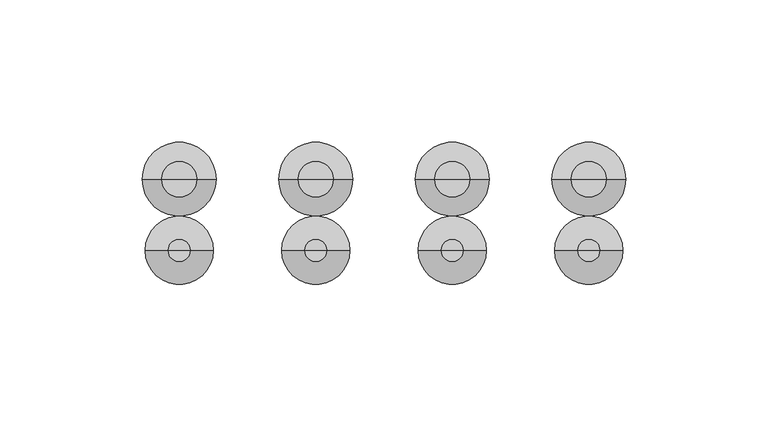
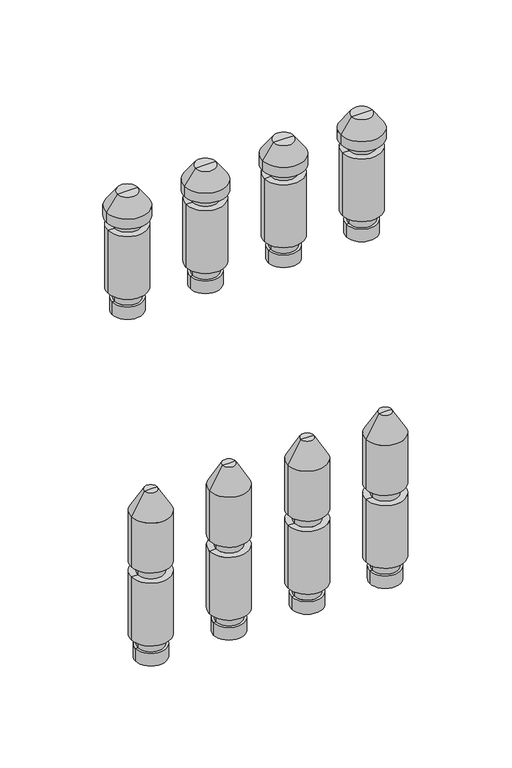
"""IFC4 building model written with IfcOpenShell, lengths in millimetres: valve geometry, PL AT_Manifold_FT-EV : 05 circuits."""

from ifc_helpers import new_model, si_unit, frame, origin, place, context, project, spatial, polyline, circle_curve, source, transform, mapped, element, save
from ifc_brep_helpers import plane_surface, cylinder_surface, revolved_surface, advanced_brep


def valve_0794a25a(model_context):
    return source(origin(), model_context, "Body", "AdvancedBrep", [
        advanced_brep(
        [(176.5, 0.0, -35.11267), (195.5, 0.0, -35.11267), (186.0, 0.0, -35.11267), (176.5, 0.0, -27.0369646), (195.5, 0.0, -27.0369646), (178.0, 0.0, -27.0369646), (194.0, 0.0, -27.0369646), (178.0, 0.0, -20.330253), (194.0, 0.0, -20.330253), (174.0, 0.0, -20.330253), (198.0, 0.0, -20.330253), (174.0, 0.0, 20.330253), (198.0, 0.0, 20.330253), (178.0, 0.0, 20.330253), (194.0, 0.0, 20.330253), (178.0, 0.0, 27.0474786), (194.0, 0.0, 27.0474786), (174.0, 0.0, 27.0474786), (198.0, 0.0, 27.0474786), (174.0, 0.0, 59.4084325), (198.0, 0.0, 59.4084325), (182.0, 0.0, 73.264839), (190.0, 0.0, 73.264839), (186.0, 0.0, 73.264839)],
        [
            (0, 1, circle_curve(frame((186.0, 0.0, -35.11267), z_axis=(0.0, 0.0, -1.0), x_axis=(1.0, 0.0, 0.0)), 9.5)),
            (1, 2),
            (2, 0),
            (1, 0, circle_curve(frame((186.0, 0.0, -35.11267), z_axis=(0.0, 0.0, -1.0), x_axis=(1.0, 0.0, 0.0)), 9.5)),
            (3, 4, circle_curve(frame((186.0, 0.0, -27.0369646), z_axis=(0.0, 0.0, -1.0), x_axis=(1.0, 0.0, 0.0)), 9.5)),
            (4, 1),
            (0, 3),
            (4, 3, circle_curve(frame((186.0, 0.0, -27.0369646), z_axis=(0.0, 0.0, -1.0), x_axis=(1.0, 0.0, 0.0)), 9.5)),
            (5, 6, circle_curve(frame((186.0, 0.0, -27.0369646), z_axis=(0.0, 0.0, -1.0), x_axis=(1.0, 0.0, 0.0)), 8.0)),
            (6, 4),
            (3, 5),
            (6, 5, circle_curve(frame((186.0, 0.0, -27.0369646), z_axis=(0.0, 0.0, -1.0), x_axis=(1.0, 0.0, 0.0)), 8.0)),
            (7, 8, circle_curve(frame((186.0, 0.0, -20.330253), z_axis=(0.0, 0.0, -1.0), x_axis=(1.0, 0.0, 0.0)), 8.0)),
            (8, 6),
            (5, 7),
            (8, 7, circle_curve(frame((186.0, 0.0, -20.330253), z_axis=(0.0, 0.0, -1.0), x_axis=(1.0, 0.0, 0.0)), 8.0)),
            (9, 10, circle_curve(frame((186.0, 0.0, -20.330253), z_axis=(0.0, 0.0, -1.0), x_axis=(1.0, 0.0, 0.0)), 12.0)),
            (10, 8),
            (7, 9),
            (10, 9, circle_curve(frame((186.0, 0.0, -20.330253), z_axis=(0.0, 0.0, -1.0), x_axis=(1.0, 0.0, 0.0)), 12.0)),
            (11, 12, circle_curve(frame((186.0, 0.0, 20.330253), z_axis=(0.0, 0.0, -1.0), x_axis=(1.0, 0.0, 0.0)), 12.0)),
            (12, 10),
            (9, 11),
            (12, 11, circle_curve(frame((186.0, 0.0, 20.330253), z_axis=(0.0, 0.0, -1.0), x_axis=(1.0, 0.0, 0.0)), 12.0)),
            (13, 14, circle_curve(frame((186.0, 0.0, 20.330253), z_axis=(0.0, 0.0, -1.0), x_axis=(1.0, 0.0, 0.0)), 8.0)),
            (14, 12),
            (11, 13),
            (14, 13, circle_curve(frame((186.0, 0.0, 20.330253), z_axis=(0.0, 0.0, -1.0), x_axis=(1.0, 0.0, 0.0)), 8.0)),
            (15, 16, circle_curve(frame((186.0, 0.0, 27.0474786), z_axis=(0.0, 0.0, -1.0), x_axis=(1.0, 0.0, 0.0)), 8.0)),
            (16, 14),
            (13, 15),
            (16, 15, circle_curve(frame((186.0, 0.0, 27.0474786), z_axis=(0.0, 0.0, -1.0), x_axis=(1.0, 0.0, 0.0)), 8.0)),
            (17, 18, circle_curve(frame((186.0, 0.0, 27.0474786), z_axis=(0.0, 0.0, -1.0), x_axis=(1.0, 0.0, 0.0)), 12.0)),
            (18, 16),
            (15, 17),
            (18, 17, circle_curve(frame((186.0, 0.0, 27.0474786), z_axis=(0.0, 0.0, -1.0), x_axis=(1.0, 0.0, 0.0)), 12.0)),
            (19, 20, circle_curve(frame((186.0, 0.0, 59.4084325), z_axis=(0.0, 0.0, -1.0), x_axis=(1.0, 0.0, 0.0)), 12.0)),
            (20, 18),
            (17, 19),
            (20, 19, circle_curve(frame((186.0, 0.0, 59.4084325), z_axis=(0.0, 0.0, -1.0), x_axis=(1.0, 0.0, 0.0)), 12.0)),
            (21, 22, circle_curve(frame((186.0, 0.0, 73.264839), z_axis=(0.0, 0.0, -1.0), x_axis=(1.0, 0.0, 0.0)), 4.0)),
            (22, 20),
            (19, 21),
            (22, 21, circle_curve(frame((186.0, 0.0, 73.264839), z_axis=(0.0, 0.0, -1.0), x_axis=(1.0, 0.0, 0.0)), 4.0)),
            (23, 22),
            (21, 23),
        ],
        [
            plane_surface(frame((186.0, 0.0, -35.11267), z_axis=(0.0, 0.0, -1.0), x_axis=(1.0, 0.0, 0.0))),
            cylinder_surface(frame((186.0, 0.0, 58.264839), z_axis=(0.0, 0.0, 1.0), x_axis=(1.0, 0.0, 0.0)), 9.5),
            plane_surface(frame((186.0, 0.0, -27.0369646), z_axis=(0.0, 0.0, 1.0), x_axis=(1.0, 0.0, 0.0))),
            cylinder_surface(frame((186.0, 0.0, 58.264839), z_axis=(0.0, 0.0, 1.0), x_axis=(1.0, 0.0, 0.0)), 8.0),
            plane_surface(frame((186.0, 0.0, -20.330253), z_axis=(0.0, 0.0, -1.0), x_axis=(1.0, 0.0, 0.0))),
            cylinder_surface(frame((186.0, 0.0, 58.264839), z_axis=(0.0, 0.0, 1.0), x_axis=(1.0, 0.0, 0.0)), 12.0),
            plane_surface(frame((186.0, 0.0, 20.330253), z_axis=(0.0, 0.0, 1.0), x_axis=(1.0, 0.0, 0.0))),
            plane_surface(frame((186.0, 0.0, 27.0474786), z_axis=(0.0, 0.0, -1.0), x_axis=(1.0, 0.0, 0.0))),
            revolved_surface(polyline([(198.0, 0.0, 59.4084325), (190.0, 0.0, 73.264839)]), (186.0, 0.0, 58.264839), (0.0, 0.0, 1.0)),
            plane_surface(frame((186.0, 0.0, 73.264839), z_axis=(0.0, 0.0, 1.0), x_axis=(1.0, 0.0, 0.0))),
        ],
        [
            (0, [[1, 2, 3]]),
            (0, [[4, -3, -2]]),
            (1, [[5, 6, -1, 7]]),
            (1, [[8, -7, -4, -6]]),
            (2, [[9, 10, -5, 11]]),
            (2, [[12, -11, -8, -10]]),
            (3, [[13, 14, -9, 15]]),
            (3, [[16, -15, -12, -14]]),
            (4, [[17, 18, -13, 19]]),
            (4, [[20, -19, -16, -18]]),
            (5, [[21, 22, -17, 23]]),
            (5, [[24, -23, -20, -22]]),
            (6, [[25, 26, -21, 27]]),
            (6, [[28, -27, -24, -26]]),
            (3, [[29, 30, -25, 31]]),
            (3, [[32, -31, -28, -30]]),
            (7, [[33, 34, -29, 35]]),
            (7, [[36, -35, -32, -34]]),
            (5, [[37, 38, -33, 39]]),
            (5, [[40, -39, -36, -38]]),
            (8, [[41, 42, -37, 43]]),
            (8, [[44, -43, -40, -42]]),
            (9, [[45, -41, 46]]),
            (9, [[-46, -44, -45]]),
        ],
    ),
        advanced_brep(
        [(128.5, 0.0, -35.11267), (147.5, 0.0, -35.11267), (138.0, 0.0, -35.11267), (128.5, 0.0, -27.0369646), (147.5, 0.0, -27.0369646), (130.0, 0.0, -27.0369646), (146.0, 0.0, -27.0369646), (130.0, 0.0, -20.330253), (146.0, 0.0, -20.330253), (126.0, 0.0, -20.330253), (150.0, 0.0, -20.330253), (126.0, 0.0, 20.330253), (150.0, 0.0, 20.330253), (130.0, 0.0, 20.330253), (146.0, 0.0, 20.330253), (130.0, 0.0, 27.0474786), (146.0, 0.0, 27.0474786), (126.0, 0.0, 27.0474786), (150.0, 0.0, 27.0474786), (126.0, 0.0, 59.4084325), (150.0, 0.0, 59.4084325), (134.0, 0.0, 73.264839), (142.0, 0.0, 73.264839), (138.0, 0.0, 73.264839)],
        [
            (0, 1, circle_curve(frame((138.0, 0.0, -35.11267), z_axis=(0.0, 0.0, -1.0), x_axis=(1.0, 0.0, 0.0)), 9.5)),
            (1, 2),
            (2, 0),
            (1, 0, circle_curve(frame((138.0, 0.0, -35.11267), z_axis=(0.0, 0.0, -1.0), x_axis=(1.0, 0.0, 0.0)), 9.5)),
            (3, 4, circle_curve(frame((138.0, 0.0, -27.0369646), z_axis=(0.0, 0.0, -1.0), x_axis=(1.0, 0.0, 0.0)), 9.5)),
            (4, 1),
            (0, 3),
            (4, 3, circle_curve(frame((138.0, 0.0, -27.0369646), z_axis=(0.0, 0.0, -1.0), x_axis=(1.0, 0.0, 0.0)), 9.5)),
            (5, 6, circle_curve(frame((138.0, 0.0, -27.0369646), z_axis=(0.0, 0.0, -1.0), x_axis=(1.0, 0.0, 0.0)), 8.0)),
            (6, 4),
            (3, 5),
            (6, 5, circle_curve(frame((138.0, 0.0, -27.0369646), z_axis=(0.0, 0.0, -1.0), x_axis=(1.0, 0.0, 0.0)), 8.0)),
            (7, 8, circle_curve(frame((138.0, 0.0, -20.330253), z_axis=(0.0, 0.0, -1.0), x_axis=(1.0, 0.0, 0.0)), 8.0)),
            (8, 6),
            (5, 7),
            (8, 7, circle_curve(frame((138.0, 0.0, -20.330253), z_axis=(0.0, 0.0, -1.0), x_axis=(1.0, 0.0, 0.0)), 8.0)),
            (9, 10, circle_curve(frame((138.0, 0.0, -20.330253), z_axis=(0.0, 0.0, -1.0), x_axis=(1.0, 0.0, 0.0)), 12.0)),
            (10, 8),
            (7, 9),
            (10, 9, circle_curve(frame((138.0, 0.0, -20.330253), z_axis=(0.0, 0.0, -1.0), x_axis=(1.0, 0.0, 0.0)), 12.0)),
            (11, 12, circle_curve(frame((138.0, 0.0, 20.330253), z_axis=(0.0, 0.0, -1.0), x_axis=(1.0, 0.0, 0.0)), 12.0)),
            (12, 10),
            (9, 11),
            (12, 11, circle_curve(frame((138.0, 0.0, 20.330253), z_axis=(0.0, 0.0, -1.0), x_axis=(1.0, 0.0, 0.0)), 12.0)),
            (13, 14, circle_curve(frame((138.0, 0.0, 20.330253), z_axis=(0.0, 0.0, -1.0), x_axis=(1.0, 0.0, 0.0)), 8.0)),
            (14, 12),
            (11, 13),
            (14, 13, circle_curve(frame((138.0, 0.0, 20.330253), z_axis=(0.0, 0.0, -1.0), x_axis=(1.0, 0.0, 0.0)), 8.0)),
            (15, 16, circle_curve(frame((138.0, 0.0, 27.0474786), z_axis=(0.0, 0.0, -1.0), x_axis=(1.0, 0.0, 0.0)), 8.0)),
            (16, 14),
            (13, 15),
            (16, 15, circle_curve(frame((138.0, 0.0, 27.0474786), z_axis=(0.0, 0.0, -1.0), x_axis=(1.0, 0.0, 0.0)), 8.0)),
            (17, 18, circle_curve(frame((138.0, 0.0, 27.0474786), z_axis=(0.0, 0.0, -1.0), x_axis=(1.0, 0.0, 0.0)), 12.0)),
            (18, 16),
            (15, 17),
            (18, 17, circle_curve(frame((138.0, 0.0, 27.0474786), z_axis=(0.0, 0.0, -1.0), x_axis=(1.0, 0.0, 0.0)), 12.0)),
            (19, 20, circle_curve(frame((138.0, 0.0, 59.4084325), z_axis=(0.0, 0.0, -1.0), x_axis=(1.0, 0.0, 0.0)), 12.0)),
            (20, 18),
            (17, 19),
            (20, 19, circle_curve(frame((138.0, 0.0, 59.4084325), z_axis=(0.0, 0.0, -1.0), x_axis=(1.0, 0.0, 0.0)), 12.0)),
            (21, 22, circle_curve(frame((138.0, 0.0, 73.264839), z_axis=(0.0, 0.0, -1.0), x_axis=(1.0, 0.0, 0.0)), 4.0)),
            (22, 20),
            (19, 21),
            (22, 21, circle_curve(frame((138.0, 0.0, 73.264839), z_axis=(0.0, 0.0, -1.0), x_axis=(1.0, 0.0, 0.0)), 4.0)),
            (23, 22),
            (21, 23),
        ],
        [
            plane_surface(frame((138.0, 0.0, -35.11267), z_axis=(0.0, 0.0, -1.0), x_axis=(1.0, 0.0, 0.0))),
            cylinder_surface(frame((138.0, 0.0, 58.264839), z_axis=(0.0, 0.0, 1.0), x_axis=(1.0, 0.0, 0.0)), 9.5),
            plane_surface(frame((138.0, 0.0, -27.0369646), z_axis=(0.0, 0.0, 1.0), x_axis=(1.0, 0.0, 0.0))),
            cylinder_surface(frame((138.0, 0.0, 58.264839), z_axis=(0.0, 0.0, 1.0), x_axis=(1.0, 0.0, 0.0)), 8.0),
            plane_surface(frame((138.0, 0.0, -20.330253), z_axis=(0.0, 0.0, -1.0), x_axis=(1.0, 0.0, 0.0))),
            cylinder_surface(frame((138.0, 0.0, 58.264839), z_axis=(0.0, 0.0, 1.0), x_axis=(1.0, 0.0, 0.0)), 12.0),
            plane_surface(frame((138.0, 0.0, 20.330253), z_axis=(0.0, 0.0, 1.0), x_axis=(1.0, 0.0, 0.0))),
            plane_surface(frame((138.0, 0.0, 27.0474786), z_axis=(0.0, 0.0, -1.0), x_axis=(1.0, 0.0, 0.0))),
            revolved_surface(polyline([(150.0, 0.0, 59.4084325), (142.0, 0.0, 73.264839)]), (138.0, 0.0, 58.264839), (0.0, 0.0, 1.0)),
            plane_surface(frame((138.0, 0.0, 73.264839), z_axis=(0.0, 0.0, 1.0), x_axis=(1.0, 0.0, 0.0))),
        ],
        [
            (0, [[1, 2, 3]]),
            (0, [[4, -3, -2]]),
            (1, [[5, 6, -1, 7]]),
            (1, [[8, -7, -4, -6]]),
            (2, [[9, 10, -5, 11]]),
            (2, [[12, -11, -8, -10]]),
            (3, [[13, 14, -9, 15]]),
            (3, [[16, -15, -12, -14]]),
            (4, [[17, 18, -13, 19]]),
            (4, [[20, -19, -16, -18]]),
            (5, [[21, 22, -17, 23]]),
            (5, [[24, -23, -20, -22]]),
            (6, [[25, 26, -21, 27]]),
            (6, [[28, -27, -24, -26]]),
            (3, [[29, 30, -25, 31]]),
            (3, [[32, -31, -28, -30]]),
            (7, [[33, 34, -29, 35]]),
            (7, [[36, -35, -32, -34]]),
            (5, [[37, 38, -33, 39]]),
            (5, [[40, -39, -36, -38]]),
            (8, [[41, 42, -37, 43]]),
            (8, [[44, -43, -40, -42]]),
            (9, [[45, -41, 46]]),
            (9, [[-46, -44, -45]]),
        ],
    ),
        advanced_brep(
        [(176.5, 25.0, 174.88733), (195.5, 25.0, 174.88733), (186.0, 25.0, 174.88733), (176.5, 25.0, 182.9630354), (195.5, 25.0, 182.9630354), (178.0, 25.0, 182.9630354), (194.0, 25.0, 182.9630354), (178.0, 25.0, 189.669747), (194.0, 25.0, 189.669747), (174.0, 25.0, 189.669747), (198.0, 25.0, 189.669747), (174.0, 25.0, 230.330253), (198.0, 25.0, 230.330253), (178.0, 25.0, 230.330253), (194.0, 25.0, 230.330253), (178.0, 25.0, 236.0474786), (194.0, 25.0, 236.0474786), (173.0, 25.0, 236.0474786), (199.0, 25.0, 236.0474786), (173.0, 25.0, 242.337955), (199.0, 25.0, 242.337955), (179.6551779, 25.0, 251.842534), (192.3448221, 25.0, 251.842534), (186.0, 25.0, 251.842534)],
        [
            (0, 1, circle_curve(frame((186.0, 25.0, 174.88733), z_axis=(0.0, 0.0, -1.0), x_axis=(1.0, 0.0, 0.0)), 9.5)),
            (1, 2),
            (2, 0),
            (1, 0, circle_curve(frame((186.0, 25.0, 174.88733), z_axis=(0.0, 0.0, -1.0), x_axis=(1.0, 0.0, 0.0)), 9.5)),
            (3, 4, circle_curve(frame((186.0, 25.0, 182.9630354), z_axis=(0.0, 0.0, -1.0), x_axis=(1.0, 0.0, 0.0)), 9.5)),
            (4, 1),
            (0, 3),
            (4, 3, circle_curve(frame((186.0, 25.0, 182.9630354), z_axis=(0.0, 0.0, -1.0), x_axis=(1.0, 0.0, 0.0)), 9.5)),
            (5, 6, circle_curve(frame((186.0, 25.0, 182.9630354), z_axis=(0.0, 0.0, -1.0), x_axis=(1.0, 0.0, 0.0)), 8.0)),
            (6, 4),
            (3, 5),
            (6, 5, circle_curve(frame((186.0, 25.0, 182.9630354), z_axis=(0.0, 0.0, -1.0), x_axis=(1.0, 0.0, 0.0)), 8.0)),
            (7, 8, circle_curve(frame((186.0, 25.0, 189.669747), z_axis=(0.0, 0.0, -1.0), x_axis=(1.0, 0.0, 0.0)), 8.0)),
            (8, 6),
            (5, 7),
            (8, 7, circle_curve(frame((186.0, 25.0, 189.669747), z_axis=(0.0, 0.0, -1.0), x_axis=(1.0, 0.0, 0.0)), 8.0)),
            (9, 10, circle_curve(frame((186.0, 25.0, 189.669747), z_axis=(0.0, 0.0, -1.0), x_axis=(1.0, 0.0, 0.0)), 12.0)),
            (10, 8),
            (7, 9),
            (10, 9, circle_curve(frame((186.0, 25.0, 189.669747), z_axis=(0.0, 0.0, -1.0), x_axis=(1.0, 0.0, 0.0)), 12.0)),
            (11, 12, circle_curve(frame((186.0, 25.0, 230.330253), z_axis=(0.0, 0.0, -1.0), x_axis=(1.0, 0.0, 0.0)), 12.0)),
            (12, 10),
            (9, 11),
            (12, 11, circle_curve(frame((186.0, 25.0, 230.330253), z_axis=(0.0, 0.0, -1.0), x_axis=(1.0, 0.0, 0.0)), 12.0)),
            (13, 14, circle_curve(frame((186.0, 25.0, 230.330253), z_axis=(0.0, 0.0, -1.0), x_axis=(1.0, 0.0, 0.0)), 8.0)),
            (14, 12),
            (11, 13),
            (14, 13, circle_curve(frame((186.0, 25.0, 230.330253), z_axis=(0.0, 0.0, -1.0), x_axis=(1.0, 0.0, 0.0)), 8.0)),
            (15, 16, circle_curve(frame((186.0, 25.0, 236.0474786), z_axis=(0.0, 0.0, -1.0), x_axis=(1.0, 0.0, 0.0)), 8.0)),
            (16, 14),
            (13, 15),
            (16, 15, circle_curve(frame((186.0, 25.0, 236.0474786), z_axis=(0.0, 0.0, -1.0), x_axis=(1.0, 0.0, 0.0)), 8.0)),
            (17, 18, circle_curve(frame((186.0, 25.0, 236.0474786), z_axis=(0.0, 0.0, -1.0), x_axis=(1.0, 0.0, 0.0)), 13.0)),
            (18, 16),
            (15, 17),
            (18, 17, circle_curve(frame((186.0, 25.0, 236.0474786), z_axis=(0.0, 0.0, -1.0), x_axis=(1.0, 0.0, 0.0)), 13.0)),
            (19, 20, circle_curve(frame((186.0, 25.0, 242.337955), z_axis=(0.0, 0.0, -1.0), x_axis=(1.0, 0.0, 0.0)), 13.0)),
            (20, 18),
            (17, 19),
            (20, 19, circle_curve(frame((186.0, 25.0, 242.337955), z_axis=(0.0, 0.0, -1.0), x_axis=(1.0, 0.0, 0.0)), 13.0)),
            (21, 22, circle_curve(frame((186.0, 25.0, 251.842534), z_axis=(0.0, 0.0, -1.0), x_axis=(1.0, 0.0, 0.0)), 6.3448221)),
            (22, 20),
            (19, 21),
            (22, 21, circle_curve(frame((186.0, 25.0, 251.842534), z_axis=(0.0, 0.0, -1.0), x_axis=(1.0, 0.0, 0.0)), 6.3448221)),
            (23, 22),
            (21, 23),
        ],
        [
            plane_surface(frame((186.0, 25.0, 174.88733), z_axis=(0.0, 0.0, -1.0), x_axis=(1.0, 0.0, 0.0))),
            cylinder_surface(frame((186.0, 25.0, 247.7026565), z_axis=(0.0, 0.0, 1.0), x_axis=(1.0, 0.0, 0.0)), 9.5),
            plane_surface(frame((186.0, 25.0, 182.9630354), z_axis=(0.0, 0.0, 1.0), x_axis=(1.0, 0.0, 0.0))),
            cylinder_surface(frame((186.0, 25.0, 247.7026565), z_axis=(0.0, 0.0, 1.0), x_axis=(1.0, 0.0, 0.0)), 8.0),
            plane_surface(frame((186.0, 25.0, 189.669747), z_axis=(0.0, 0.0, -1.0), x_axis=(1.0, 0.0, 0.0))),
            cylinder_surface(frame((186.0, 25.0, 247.7026565), z_axis=(0.0, 0.0, 1.0), x_axis=(1.0, 0.0, 0.0)), 12.0),
            plane_surface(frame((186.0, 25.0, 230.330253), z_axis=(0.0, 0.0, 1.0), x_axis=(1.0, 0.0, 0.0))),
            plane_surface(frame((186.0, 25.0, 236.0474786), z_axis=(0.0, 0.0, -1.0), x_axis=(1.0, 0.0, 0.0))),
            cylinder_surface(frame((186.0, 25.0, 247.7026565), z_axis=(0.0, 0.0, 1.0), x_axis=(1.0, 0.0, 0.0)), 13.0),
            revolved_surface(polyline([(199.0, 25.0, 242.337955), (192.3448221, 25.0, 251.842534)]), (186.0, 25.0, 247.7026565), (0.0, 0.0, 1.0)),
            plane_surface(frame((186.0, 25.0, 251.842534), z_axis=(0.0, 0.0, 1.0), x_axis=(1.0, 0.0, 0.0))),
        ],
        [
            (0, [[1, 2, 3]]),
            (0, [[4, -3, -2]]),
            (1, [[5, 6, -1, 7]]),
            (1, [[8, -7, -4, -6]]),
            (2, [[9, 10, -5, 11]]),
            (2, [[12, -11, -8, -10]]),
            (3, [[13, 14, -9, 15]]),
            (3, [[16, -15, -12, -14]]),
            (4, [[17, 18, -13, 19]]),
            (4, [[20, -19, -16, -18]]),
            (5, [[21, 22, -17, 23]]),
            (5, [[24, -23, -20, -22]]),
            (6, [[25, 26, -21, 27]]),
            (6, [[28, -27, -24, -26]]),
            (3, [[29, 30, -25, 31]]),
            (3, [[32, -31, -28, -30]]),
            (7, [[33, 34, -29, 35]]),
            (7, [[36, -35, -32, -34]]),
            (8, [[37, 38, -33, 39]]),
            (8, [[40, -39, -36, -38]]),
            (9, [[41, 42, -37, 43]]),
            (9, [[44, -43, -40, -42]]),
            (10, [[45, -41, 46]]),
            (10, [[-46, -44, -45]]),
        ],
    ),
        advanced_brep(
        [(128.5, 25.0, 174.88733), (147.5, 25.0, 174.88733), (138.0, 25.0, 174.88733), (128.5, 25.0, 182.9630354), (147.5, 25.0, 182.9630354), (130.0, 25.0, 182.9630354), (146.0, 25.0, 182.9630354), (130.0, 25.0, 189.669747), (146.0, 25.0, 189.669747), (126.0, 25.0, 189.669747), (150.0, 25.0, 189.669747), (126.0, 25.0, 230.330253), (150.0, 25.0, 230.330253), (130.0, 25.0, 230.330253), (146.0, 25.0, 230.330253), (130.0, 25.0, 236.0474786), (146.0, 25.0, 236.0474786), (125.0, 25.0, 236.0474786), (151.0, 25.0, 236.0474786), (125.0, 25.0, 242.337955), (151.0, 25.0, 242.337955), (131.6551779, 25.0, 251.842534), (144.3448221, 25.0, 251.842534), (138.0, 25.0, 251.842534)],
        [
            (0, 1, circle_curve(frame((138.0, 25.0, 174.88733), z_axis=(0.0, 0.0, -1.0), x_axis=(1.0, 0.0, 0.0)), 9.5)),
            (1, 2),
            (2, 0),
            (1, 0, circle_curve(frame((138.0, 25.0, 174.88733), z_axis=(0.0, 0.0, -1.0), x_axis=(1.0, 0.0, 0.0)), 9.5)),
            (3, 4, circle_curve(frame((138.0, 25.0, 182.9630354), z_axis=(0.0, 0.0, -1.0), x_axis=(1.0, 0.0, 0.0)), 9.5)),
            (4, 1),
            (0, 3),
            (4, 3, circle_curve(frame((138.0, 25.0, 182.9630354), z_axis=(0.0, 0.0, -1.0), x_axis=(1.0, 0.0, 0.0)), 9.5)),
            (5, 6, circle_curve(frame((138.0, 25.0, 182.9630354), z_axis=(0.0, 0.0, -1.0), x_axis=(1.0, 0.0, 0.0)), 8.0)),
            (6, 4),
            (3, 5),
            (6, 5, circle_curve(frame((138.0, 25.0, 182.9630354), z_axis=(0.0, 0.0, -1.0), x_axis=(1.0, 0.0, 0.0)), 8.0)),
            (7, 8, circle_curve(frame((138.0, 25.0, 189.669747), z_axis=(0.0, 0.0, -1.0), x_axis=(1.0, 0.0, 0.0)), 8.0)),
            (8, 6),
            (5, 7),
            (8, 7, circle_curve(frame((138.0, 25.0, 189.669747), z_axis=(0.0, 0.0, -1.0), x_axis=(1.0, 0.0, 0.0)), 8.0)),
            (9, 10, circle_curve(frame((138.0, 25.0, 189.669747), z_axis=(0.0, 0.0, -1.0), x_axis=(1.0, 0.0, 0.0)), 12.0)),
            (10, 8),
            (7, 9),
            (10, 9, circle_curve(frame((138.0, 25.0, 189.669747), z_axis=(0.0, 0.0, -1.0), x_axis=(1.0, 0.0, 0.0)), 12.0)),
            (11, 12, circle_curve(frame((138.0, 25.0, 230.330253), z_axis=(0.0, 0.0, -1.0), x_axis=(1.0, 0.0, 0.0)), 12.0)),
            (12, 10),
            (9, 11),
            (12, 11, circle_curve(frame((138.0, 25.0, 230.330253), z_axis=(0.0, 0.0, -1.0), x_axis=(1.0, 0.0, 0.0)), 12.0)),
            (13, 14, circle_curve(frame((138.0, 25.0, 230.330253), z_axis=(0.0, 0.0, -1.0), x_axis=(1.0, 0.0, 0.0)), 8.0)),
            (14, 12),
            (11, 13),
            (14, 13, circle_curve(frame((138.0, 25.0, 230.330253), z_axis=(0.0, 0.0, -1.0), x_axis=(1.0, 0.0, 0.0)), 8.0)),
            (15, 16, circle_curve(frame((138.0, 25.0, 236.0474786), z_axis=(0.0, 0.0, -1.0), x_axis=(1.0, 0.0, 0.0)), 8.0)),
            (16, 14),
            (13, 15),
            (16, 15, circle_curve(frame((138.0, 25.0, 236.0474786), z_axis=(0.0, 0.0, -1.0), x_axis=(1.0, 0.0, 0.0)), 8.0)),
            (17, 18, circle_curve(frame((138.0, 25.0, 236.0474786), z_axis=(0.0, 0.0, -1.0), x_axis=(1.0, 0.0, 0.0)), 13.0)),
            (18, 16),
            (15, 17),
            (18, 17, circle_curve(frame((138.0, 25.0, 236.0474786), z_axis=(0.0, 0.0, -1.0), x_axis=(1.0, 0.0, 0.0)), 13.0)),
            (19, 20, circle_curve(frame((138.0, 25.0, 242.337955), z_axis=(0.0, 0.0, -1.0), x_axis=(1.0, 0.0, 0.0)), 13.0)),
            (20, 18),
            (17, 19),
            (20, 19, circle_curve(frame((138.0, 25.0, 242.337955), z_axis=(0.0, 0.0, -1.0), x_axis=(1.0, 0.0, 0.0)), 13.0)),
            (21, 22, circle_curve(frame((138.0, 25.0, 251.842534), z_axis=(0.0, 0.0, -1.0), x_axis=(1.0, 0.0, 0.0)), 6.3448221)),
            (22, 20),
            (19, 21),
            (22, 21, circle_curve(frame((138.0, 25.0, 251.842534), z_axis=(0.0, 0.0, -1.0), x_axis=(1.0, 0.0, 0.0)), 6.3448221)),
            (23, 22),
            (21, 23),
        ],
        [
            plane_surface(frame((138.0, 25.0, 174.88733), z_axis=(0.0, 0.0, -1.0), x_axis=(1.0, 0.0, 0.0))),
            cylinder_surface(frame((138.0, 25.0, 247.7026565), z_axis=(0.0, 0.0, 1.0), x_axis=(1.0, 0.0, 0.0)), 9.5),
            plane_surface(frame((138.0, 25.0, 182.9630354), z_axis=(0.0, 0.0, 1.0), x_axis=(1.0, 0.0, 0.0))),
            cylinder_surface(frame((138.0, 25.0, 247.7026565), z_axis=(0.0, 0.0, 1.0), x_axis=(1.0, 0.0, 0.0)), 8.0),
            plane_surface(frame((138.0, 25.0, 189.669747), z_axis=(0.0, 0.0, -1.0), x_axis=(1.0, 0.0, 0.0))),
            cylinder_surface(frame((138.0, 25.0, 247.7026565), z_axis=(0.0, 0.0, 1.0), x_axis=(1.0, 0.0, 0.0)), 12.0),
            plane_surface(frame((138.0, 25.0, 230.330253), z_axis=(0.0, 0.0, 1.0), x_axis=(1.0, 0.0, 0.0))),
            plane_surface(frame((138.0, 25.0, 236.0474786), z_axis=(0.0, 0.0, -1.0), x_axis=(1.0, 0.0, 0.0))),
            cylinder_surface(frame((138.0, 25.0, 247.7026565), z_axis=(0.0, 0.0, 1.0), x_axis=(1.0, 0.0, 0.0)), 13.0),
            revolved_surface(polyline([(151.0, 25.0, 242.337955), (144.3448221, 25.0, 251.842534)]), (138.0, 25.0, 247.7026565), (0.0, 0.0, 1.0)),
            plane_surface(frame((138.0, 25.0, 251.842534), z_axis=(0.0, 0.0, 1.0), x_axis=(1.0, 0.0, 0.0))),
        ],
        [
            (0, [[1, 2, 3]]),
            (0, [[4, -3, -2]]),
            (1, [[5, 6, -1, 7]]),
            (1, [[8, -7, -4, -6]]),
            (2, [[9, 10, -5, 11]]),
            (2, [[12, -11, -8, -10]]),
            (3, [[13, 14, -9, 15]]),
            (3, [[16, -15, -12, -14]]),
            (4, [[17, 18, -13, 19]]),
            (4, [[20, -19, -16, -18]]),
            (5, [[21, 22, -17, 23]]),
            (5, [[24, -23, -20, -22]]),
            (6, [[25, 26, -21, 27]]),
            (6, [[28, -27, -24, -26]]),
            (3, [[29, 30, -25, 31]]),
            (3, [[32, -31, -28, -30]]),
            (7, [[33, 34, -29, 35]]),
            (7, [[36, -35, -32, -34]]),
            (8, [[37, 38, -33, 39]]),
            (8, [[40, -39, -36, -38]]),
            (9, [[41, 42, -37, 43]]),
            (9, [[44, -43, -40, -42]]),
            (10, [[45, -41, 46]]),
            (10, [[-46, -44, -45]]),
        ],
    ),
        advanced_brep(
        [(80.5, 0.0, -35.11267), (99.5, 0.0, -35.11267), (90.0, 0.0, -35.11267), (80.5, 0.0, -27.0369646), (99.5, 0.0, -27.0369646), (82.0, 0.0, -27.0369646), (98.0, 0.0, -27.0369646), (82.0, 0.0, -20.330253), (98.0, 0.0, -20.330253), (78.0, 0.0, -20.330253), (102.0, 0.0, -20.330253), (78.0, 0.0, 20.330253), (102.0, 0.0, 20.330253), (82.0, 0.0, 20.330253), (98.0, 0.0, 20.330253), (82.0, 0.0, 27.0474786), (98.0, 0.0, 27.0474786), (78.0, 0.0, 27.0474786), (102.0, 0.0, 27.0474786), (78.0, 0.0, 59.4084325), (102.0, 0.0, 59.4084325), (86.0, 0.0, 73.264839), (94.0, 0.0, 73.264839), (90.0, 0.0, 73.264839)],
        [
            (0, 1, circle_curve(frame((90.0, 0.0, -35.11267), z_axis=(0.0, 0.0, -1.0), x_axis=(1.0, 0.0, 0.0)), 9.5)),
            (1, 2),
            (2, 0),
            (1, 0, circle_curve(frame((90.0, 0.0, -35.11267), z_axis=(0.0, 0.0, -1.0), x_axis=(1.0, 0.0, 0.0)), 9.5)),
            (3, 4, circle_curve(frame((90.0, 0.0, -27.0369646), z_axis=(0.0, 0.0, -1.0), x_axis=(1.0, 0.0, 0.0)), 9.5)),
            (4, 1),
            (0, 3),
            (4, 3, circle_curve(frame((90.0, 0.0, -27.0369646), z_axis=(0.0, 0.0, -1.0), x_axis=(1.0, 0.0, 0.0)), 9.5)),
            (5, 6, circle_curve(frame((90.0, 0.0, -27.0369646), z_axis=(0.0, 0.0, -1.0), x_axis=(1.0, 0.0, 0.0)), 8.0)),
            (6, 4),
            (3, 5),
            (6, 5, circle_curve(frame((90.0, 0.0, -27.0369646), z_axis=(0.0, 0.0, -1.0), x_axis=(1.0, 0.0, 0.0)), 8.0)),
            (7, 8, circle_curve(frame((90.0, 0.0, -20.330253), z_axis=(0.0, 0.0, -1.0), x_axis=(1.0, 0.0, 0.0)), 8.0)),
            (8, 6),
            (5, 7),
            (8, 7, circle_curve(frame((90.0, 0.0, -20.330253), z_axis=(0.0, 0.0, -1.0), x_axis=(1.0, 0.0, 0.0)), 8.0)),
            (9, 10, circle_curve(frame((90.0, 0.0, -20.330253), z_axis=(0.0, 0.0, -1.0), x_axis=(1.0, 0.0, 0.0)), 12.0)),
            (10, 8),
            (7, 9),
            (10, 9, circle_curve(frame((90.0, 0.0, -20.330253), z_axis=(0.0, 0.0, -1.0), x_axis=(1.0, 0.0, 0.0)), 12.0)),
            (11, 12, circle_curve(frame((90.0, 0.0, 20.330253), z_axis=(0.0, 0.0, -1.0), x_axis=(1.0, 0.0, 0.0)), 12.0)),
            (12, 10),
            (9, 11),
            (12, 11, circle_curve(frame((90.0, 0.0, 20.330253), z_axis=(0.0, 0.0, -1.0), x_axis=(1.0, 0.0, 0.0)), 12.0)),
            (13, 14, circle_curve(frame((90.0, 0.0, 20.330253), z_axis=(0.0, 0.0, -1.0), x_axis=(1.0, 0.0, 0.0)), 8.0)),
            (14, 12),
            (11, 13),
            (14, 13, circle_curve(frame((90.0, 0.0, 20.330253), z_axis=(0.0, 0.0, -1.0), x_axis=(1.0, 0.0, 0.0)), 8.0)),
            (15, 16, circle_curve(frame((90.0, 0.0, 27.0474786), z_axis=(0.0, 0.0, -1.0), x_axis=(1.0, 0.0, 0.0)), 8.0)),
            (16, 14),
            (13, 15),
            (16, 15, circle_curve(frame((90.0, 0.0, 27.0474786), z_axis=(0.0, 0.0, -1.0), x_axis=(1.0, 0.0, 0.0)), 8.0)),
            (17, 18, circle_curve(frame((90.0, 0.0, 27.0474786), z_axis=(0.0, 0.0, -1.0), x_axis=(1.0, 0.0, 0.0)), 12.0)),
            (18, 16),
            (15, 17),
            (18, 17, circle_curve(frame((90.0, 0.0, 27.0474786), z_axis=(0.0, 0.0, -1.0), x_axis=(1.0, 0.0, 0.0)), 12.0)),
            (19, 20, circle_curve(frame((90.0, 0.0, 59.4084325), z_axis=(0.0, 0.0, -1.0), x_axis=(1.0, 0.0, 0.0)), 12.0)),
            (20, 18),
            (17, 19),
            (20, 19, circle_curve(frame((90.0, 0.0, 59.4084325), z_axis=(0.0, 0.0, -1.0), x_axis=(1.0, 0.0, 0.0)), 12.0)),
            (21, 22, circle_curve(frame((90.0, 0.0, 73.264839), z_axis=(0.0, 0.0, -1.0), x_axis=(1.0, 0.0, 0.0)), 4.0)),
            (22, 20),
            (19, 21),
            (22, 21, circle_curve(frame((90.0, 0.0, 73.264839), z_axis=(0.0, 0.0, -1.0), x_axis=(1.0, 0.0, 0.0)), 4.0)),
            (23, 22),
            (21, 23),
        ],
        [
            plane_surface(frame((90.0, 0.0, -35.11267), z_axis=(0.0, 0.0, -1.0), x_axis=(1.0, 0.0, 0.0))),
            cylinder_surface(frame((90.0, 0.0, 58.264839), z_axis=(0.0, 0.0, 1.0), x_axis=(1.0, 0.0, 0.0)), 9.5),
            plane_surface(frame((90.0, 0.0, -27.0369646), z_axis=(0.0, 0.0, 1.0), x_axis=(1.0, 0.0, 0.0))),
            cylinder_surface(frame((90.0, 0.0, 58.264839), z_axis=(0.0, 0.0, 1.0), x_axis=(1.0, 0.0, 0.0)), 8.0),
            plane_surface(frame((90.0, 0.0, -20.330253), z_axis=(0.0, 0.0, -1.0), x_axis=(1.0, 0.0, 0.0))),
            cylinder_surface(frame((90.0, 0.0, 58.264839), z_axis=(0.0, 0.0, 1.0), x_axis=(1.0, 0.0, 0.0)), 12.0),
            plane_surface(frame((90.0, 0.0, 20.330253), z_axis=(0.0, 0.0, 1.0), x_axis=(1.0, 0.0, 0.0))),
            plane_surface(frame((90.0, 0.0, 27.0474786), z_axis=(0.0, 0.0, -1.0), x_axis=(1.0, 0.0, 0.0))),
            revolved_surface(polyline([(102.0, 0.0, 59.4084325), (94.0, 0.0, 73.264839)]), (90.0, 0.0, 58.264839), (0.0, 0.0, 1.0)),
            plane_surface(frame((90.0, 0.0, 73.264839), z_axis=(0.0, 0.0, 1.0), x_axis=(1.0, 0.0, 0.0))),
        ],
        [
            (0, [[1, 2, 3]]),
            (0, [[4, -3, -2]]),
            (1, [[5, 6, -1, 7]]),
            (1, [[8, -7, -4, -6]]),
            (2, [[9, 10, -5, 11]]),
            (2, [[12, -11, -8, -10]]),
            (3, [[13, 14, -9, 15]]),
            (3, [[16, -15, -12, -14]]),
            (4, [[17, 18, -13, 19]]),
            (4, [[20, -19, -16, -18]]),
            (5, [[21, 22, -17, 23]]),
            (5, [[24, -23, -20, -22]]),
            (6, [[25, 26, -21, 27]]),
            (6, [[28, -27, -24, -26]]),
            (3, [[29, 30, -25, 31]]),
            (3, [[32, -31, -28, -30]]),
            (7, [[33, 34, -29, 35]]),
            (7, [[36, -35, -32, -34]]),
            (5, [[37, 38, -33, 39]]),
            (5, [[40, -39, -36, -38]]),
            (8, [[41, 42, -37, 43]]),
            (8, [[44, -43, -40, -42]]),
            (9, [[45, -41, 46]]),
            (9, [[-46, -44, -45]]),
        ],
    ),
        advanced_brep(
        [(80.5, 25.0, 174.88733), (99.5, 25.0, 174.88733), (90.0, 25.0, 174.88733), (80.5, 25.0, 182.9630354), (99.5, 25.0, 182.9630354), (82.0, 25.0, 182.9630354), (98.0, 25.0, 182.9630354), (82.0, 25.0, 189.669747), (98.0, 25.0, 189.669747), (78.0, 25.0, 189.669747), (102.0, 25.0, 189.669747), (78.0, 25.0, 230.330253), (102.0, 25.0, 230.330253), (82.0, 25.0, 230.330253), (98.0, 25.0, 230.330253), (82.0, 25.0, 236.0474786), (98.0, 25.0, 236.0474786), (77.0, 25.0, 236.0474786), (103.0, 25.0, 236.0474786), (77.0, 25.0, 242.337955), (103.0, 25.0, 242.337955), (83.6551779, 25.0, 251.842534), (96.3448221, 25.0, 251.842534), (90.0, 25.0, 251.842534)],
        [
            (0, 1, circle_curve(frame((90.0, 25.0, 174.88733), z_axis=(0.0, 0.0, -1.0), x_axis=(1.0, 0.0, 0.0)), 9.5)),
            (1, 2),
            (2, 0),
            (1, 0, circle_curve(frame((90.0, 25.0, 174.88733), z_axis=(0.0, 0.0, -1.0), x_axis=(1.0, 0.0, 0.0)), 9.5)),
            (3, 4, circle_curve(frame((90.0, 25.0, 182.9630354), z_axis=(0.0, 0.0, -1.0), x_axis=(1.0, 0.0, 0.0)), 9.5)),
            (4, 1),
            (0, 3),
            (4, 3, circle_curve(frame((90.0, 25.0, 182.9630354), z_axis=(0.0, 0.0, -1.0), x_axis=(1.0, 0.0, 0.0)), 9.5)),
            (5, 6, circle_curve(frame((90.0, 25.0, 182.9630354), z_axis=(0.0, 0.0, -1.0), x_axis=(1.0, 0.0, 0.0)), 8.0)),
            (6, 4),
            (3, 5),
            (6, 5, circle_curve(frame((90.0, 25.0, 182.9630354), z_axis=(0.0, 0.0, -1.0), x_axis=(1.0, 0.0, 0.0)), 8.0)),
            (7, 8, circle_curve(frame((90.0, 25.0, 189.669747), z_axis=(0.0, 0.0, -1.0), x_axis=(1.0, 0.0, 0.0)), 8.0)),
            (8, 6),
            (5, 7),
            (8, 7, circle_curve(frame((90.0, 25.0, 189.669747), z_axis=(0.0, 0.0, -1.0), x_axis=(1.0, 0.0, 0.0)), 8.0)),
            (9, 10, circle_curve(frame((90.0, 25.0, 189.669747), z_axis=(0.0, 0.0, -1.0), x_axis=(1.0, 0.0, 0.0)), 12.0)),
            (10, 8),
            (7, 9),
            (10, 9, circle_curve(frame((90.0, 25.0, 189.669747), z_axis=(0.0, 0.0, -1.0), x_axis=(1.0, 0.0, 0.0)), 12.0)),
            (11, 12, circle_curve(frame((90.0, 25.0, 230.330253), z_axis=(0.0, 0.0, -1.0), x_axis=(1.0, 0.0, 0.0)), 12.0)),
            (12, 10),
            (9, 11),
            (12, 11, circle_curve(frame((90.0, 25.0, 230.330253), z_axis=(0.0, 0.0, -1.0), x_axis=(1.0, 0.0, 0.0)), 12.0)),
            (13, 14, circle_curve(frame((90.0, 25.0, 230.330253), z_axis=(0.0, 0.0, -1.0), x_axis=(1.0, 0.0, 0.0)), 8.0)),
            (14, 12),
            (11, 13),
            (14, 13, circle_curve(frame((90.0, 25.0, 230.330253), z_axis=(0.0, 0.0, -1.0), x_axis=(1.0, 0.0, 0.0)), 8.0)),
            (15, 16, circle_curve(frame((90.0, 25.0, 236.0474786), z_axis=(0.0, 0.0, -1.0), x_axis=(1.0, 0.0, 0.0)), 8.0)),
            (16, 14),
            (13, 15),
            (16, 15, circle_curve(frame((90.0, 25.0, 236.0474786), z_axis=(0.0, 0.0, -1.0), x_axis=(1.0, 0.0, 0.0)), 8.0)),
            (17, 18, circle_curve(frame((90.0, 25.0, 236.0474786), z_axis=(0.0, 0.0, -1.0), x_axis=(1.0, 0.0, 0.0)), 13.0)),
            (18, 16),
            (15, 17),
            (18, 17, circle_curve(frame((90.0, 25.0, 236.0474786), z_axis=(0.0, 0.0, -1.0), x_axis=(1.0, 0.0, 0.0)), 13.0)),
            (19, 20, circle_curve(frame((90.0, 25.0, 242.337955), z_axis=(0.0, 0.0, -1.0), x_axis=(1.0, 0.0, 0.0)), 13.0)),
            (20, 18),
            (17, 19),
            (20, 19, circle_curve(frame((90.0, 25.0, 242.337955), z_axis=(0.0, 0.0, -1.0), x_axis=(1.0, 0.0, 0.0)), 13.0)),
            (21, 22, circle_curve(frame((90.0, 25.0, 251.842534), z_axis=(0.0, 0.0, -1.0), x_axis=(1.0, 0.0, 0.0)), 6.3448221)),
            (22, 20),
            (19, 21),
            (22, 21, circle_curve(frame((90.0, 25.0, 251.842534), z_axis=(0.0, 0.0, -1.0), x_axis=(1.0, 0.0, 0.0)), 6.3448221)),
            (23, 22),
            (21, 23),
        ],
        [
            plane_surface(frame((90.0, 25.0, 174.88733), z_axis=(0.0, 0.0, -1.0), x_axis=(1.0, 0.0, 0.0))),
            cylinder_surface(frame((90.0, 25.0, 247.7026565), z_axis=(0.0, 0.0, 1.0), x_axis=(1.0, 0.0, 0.0)), 9.5),
            plane_surface(frame((90.0, 25.0, 182.9630354), z_axis=(0.0, 0.0, 1.0), x_axis=(1.0, 0.0, 0.0))),
            cylinder_surface(frame((90.0, 25.0, 247.7026565), z_axis=(0.0, 0.0, 1.0), x_axis=(1.0, 0.0, 0.0)), 8.0),
            plane_surface(frame((90.0, 25.0, 189.669747), z_axis=(0.0, 0.0, -1.0), x_axis=(1.0, 0.0, 0.0))),
            cylinder_surface(frame((90.0, 25.0, 247.7026565), z_axis=(0.0, 0.0, 1.0), x_axis=(1.0, 0.0, 0.0)), 12.0),
            plane_surface(frame((90.0, 25.0, 230.330253), z_axis=(0.0, 0.0, 1.0), x_axis=(1.0, 0.0, 0.0))),
            plane_surface(frame((90.0, 25.0, 236.0474786), z_axis=(0.0, 0.0, -1.0), x_axis=(1.0, 0.0, 0.0))),
            cylinder_surface(frame((90.0, 25.0, 247.7026565), z_axis=(0.0, 0.0, 1.0), x_axis=(1.0, 0.0, 0.0)), 13.0),
            revolved_surface(polyline([(103.0, 25.0, 242.337955), (96.3448221, 25.0, 251.842534)]), (90.0, 25.0, 247.7026565), (0.0, 0.0, 1.0)),
            plane_surface(frame((90.0, 25.0, 251.842534), z_axis=(0.0, 0.0, 1.0), x_axis=(1.0, 0.0, 0.0))),
        ],
        [
            (0, [[1, 2, 3]]),
            (0, [[4, -3, -2]]),
            (1, [[5, 6, -1, 7]]),
            (1, [[8, -7, -4, -6]]),
            (2, [[9, 10, -5, 11]]),
            (2, [[12, -11, -8, -10]]),
            (3, [[13, 14, -9, 15]]),
            (3, [[16, -15, -12, -14]]),
            (4, [[17, 18, -13, 19]]),
            (4, [[20, -19, -16, -18]]),
            (5, [[21, 22, -17, 23]]),
            (5, [[24, -23, -20, -22]]),
            (6, [[25, 26, -21, 27]]),
            (6, [[28, -27, -24, -26]]),
            (3, [[29, 30, -25, 31]]),
            (3, [[32, -31, -28, -30]]),
            (7, [[33, 34, -29, 35]]),
            (7, [[36, -35, -32, -34]]),
            (8, [[37, 38, -33, 39]]),
            (8, [[40, -39, -36, -38]]),
            (9, [[41, 42, -37, 43]]),
            (9, [[44, -43, -40, -42]]),
            (10, [[45, -41, 46]]),
            (10, [[-46, -44, -45]]),
        ],
    ),
        advanced_brep(
        [(224.5, 0.0, -35.11267), (243.5, 0.0, -35.11267), (234.0, 0.0, -35.11267), (224.5, 0.0, -27.0369646), (243.5, 0.0, -27.0369646), (226.0, 0.0, -27.0369646), (242.0, 0.0, -27.0369646), (226.0, 0.0, -20.330253), (242.0, 0.0, -20.330253), (222.0, 0.0, -20.330253), (246.0, 0.0, -20.330253), (222.0, 0.0, 20.330253), (246.0, 0.0, 20.330253), (226.0, 0.0, 20.330253), (242.0, 0.0, 20.330253), (226.0, 0.0, 27.0474786), (242.0, 0.0, 27.0474786), (222.0, 0.0, 27.0474786), (246.0, 0.0, 27.0474786), (222.0, 0.0, 59.4084325), (246.0, 0.0, 59.4084325), (230.0, 0.0, 73.264839), (238.0, 0.0, 73.264839), (234.0, 0.0, 73.264839)],
        [
            (0, 1, circle_curve(frame((234.0, 0.0, -35.11267), z_axis=(0.0, 0.0, -1.0), x_axis=(1.0, 0.0, 0.0)), 9.5)),
            (1, 2),
            (2, 0),
            (1, 0, circle_curve(frame((234.0, 0.0, -35.11267), z_axis=(0.0, 0.0, -1.0), x_axis=(1.0, 0.0, 0.0)), 9.5)),
            (3, 4, circle_curve(frame((234.0, 0.0, -27.0369646), z_axis=(0.0, 0.0, -1.0), x_axis=(1.0, 0.0, 0.0)), 9.5)),
            (4, 1),
            (0, 3),
            (4, 3, circle_curve(frame((234.0, 0.0, -27.0369646), z_axis=(0.0, 0.0, -1.0), x_axis=(1.0, 0.0, 0.0)), 9.5)),
            (5, 6, circle_curve(frame((234.0, 0.0, -27.0369646), z_axis=(0.0, 0.0, -1.0), x_axis=(1.0, 0.0, 0.0)), 8.0)),
            (6, 4),
            (3, 5),
            (6, 5, circle_curve(frame((234.0, 0.0, -27.0369646), z_axis=(0.0, 0.0, -1.0), x_axis=(1.0, 0.0, 0.0)), 8.0)),
            (7, 8, circle_curve(frame((234.0, 0.0, -20.330253), z_axis=(0.0, 0.0, -1.0), x_axis=(1.0, 0.0, 0.0)), 8.0)),
            (8, 6),
            (5, 7),
            (8, 7, circle_curve(frame((234.0, 0.0, -20.330253), z_axis=(0.0, 0.0, -1.0), x_axis=(1.0, 0.0, 0.0)), 8.0)),
            (9, 10, circle_curve(frame((234.0, 0.0, -20.330253), z_axis=(0.0, 0.0, -1.0), x_axis=(1.0, 0.0, 0.0)), 12.0)),
            (10, 8),
            (7, 9),
            (10, 9, circle_curve(frame((234.0, 0.0, -20.330253), z_axis=(0.0, 0.0, -1.0), x_axis=(1.0, 0.0, 0.0)), 12.0)),
            (11, 12, circle_curve(frame((234.0, 0.0, 20.330253), z_axis=(0.0, 0.0, -1.0), x_axis=(1.0, 0.0, 0.0)), 12.0)),
            (12, 10),
            (9, 11),
            (12, 11, circle_curve(frame((234.0, 0.0, 20.330253), z_axis=(0.0, 0.0, -1.0), x_axis=(1.0, 0.0, 0.0)), 12.0)),
            (13, 14, circle_curve(frame((234.0, 0.0, 20.330253), z_axis=(0.0, 0.0, -1.0), x_axis=(1.0, 0.0, 0.0)), 8.0)),
            (14, 12),
            (11, 13),
            (14, 13, circle_curve(frame((234.0, 0.0, 20.330253), z_axis=(0.0, 0.0, -1.0), x_axis=(1.0, 0.0, 0.0)), 8.0)),
            (15, 16, circle_curve(frame((234.0, 0.0, 27.0474786), z_axis=(0.0, 0.0, -1.0), x_axis=(1.0, 0.0, 0.0)), 8.0)),
            (16, 14),
            (13, 15),
            (16, 15, circle_curve(frame((234.0, 0.0, 27.0474786), z_axis=(0.0, 0.0, -1.0), x_axis=(1.0, 0.0, 0.0)), 8.0)),
            (17, 18, circle_curve(frame((234.0, 0.0, 27.0474786), z_axis=(0.0, 0.0, -1.0), x_axis=(1.0, 0.0, 0.0)), 12.0)),
            (18, 16),
            (15, 17),
            (18, 17, circle_curve(frame((234.0, 0.0, 27.0474786), z_axis=(0.0, 0.0, -1.0), x_axis=(1.0, 0.0, 0.0)), 12.0)),
            (19, 20, circle_curve(frame((234.0, 0.0, 59.4084325), z_axis=(0.0, 0.0, -1.0), x_axis=(1.0, 0.0, 0.0)), 12.0)),
            (20, 18),
            (17, 19),
            (20, 19, circle_curve(frame((234.0, 0.0, 59.4084325), z_axis=(0.0, 0.0, -1.0), x_axis=(1.0, 0.0, 0.0)), 12.0)),
            (21, 22, circle_curve(frame((234.0, 0.0, 73.264839), z_axis=(0.0, 0.0, -1.0), x_axis=(1.0, 0.0, 0.0)), 4.0)),
            (22, 20),
            (19, 21),
            (22, 21, circle_curve(frame((234.0, 0.0, 73.264839), z_axis=(0.0, 0.0, -1.0), x_axis=(1.0, 0.0, 0.0)), 4.0)),
            (23, 22),
            (21, 23),
        ],
        [
            plane_surface(frame((234.0, 0.0, -35.11267), z_axis=(0.0, 0.0, -1.0), x_axis=(1.0, 0.0, 0.0))),
            cylinder_surface(frame((234.0, 0.0, 58.264839), z_axis=(0.0, 0.0, 1.0), x_axis=(1.0, 0.0, 0.0)), 9.5),
            plane_surface(frame((234.0, 0.0, -27.0369646), z_axis=(0.0, 0.0, 1.0), x_axis=(1.0, 0.0, 0.0))),
            cylinder_surface(frame((234.0, 0.0, 58.264839), z_axis=(0.0, 0.0, 1.0), x_axis=(1.0, 0.0, 0.0)), 8.0),
            plane_surface(frame((234.0, 0.0, -20.330253), z_axis=(0.0, 0.0, -1.0), x_axis=(1.0, 0.0, 0.0))),
            cylinder_surface(frame((234.0, 0.0, 58.264839), z_axis=(0.0, 0.0, 1.0), x_axis=(1.0, 0.0, 0.0)), 12.0),
            plane_surface(frame((234.0, 0.0, 20.330253), z_axis=(0.0, 0.0, 1.0), x_axis=(1.0, 0.0, 0.0))),
            plane_surface(frame((234.0, 0.0, 27.0474786), z_axis=(0.0, 0.0, -1.0), x_axis=(1.0, 0.0, 0.0))),
            revolved_surface(polyline([(246.0, 0.0, 59.4084325), (238.0, 0.0, 73.264839)]), (234.0, 0.0, 58.264839), (0.0, 0.0, 1.0)),
            plane_surface(frame((234.0, 0.0, 73.264839), z_axis=(0.0, 0.0, 1.0), x_axis=(1.0, 0.0, 0.0))),
        ],
        [
            (0, [[1, 2, 3]]),
            (0, [[4, -3, -2]]),
            (1, [[5, 6, -1, 7]]),
            (1, [[8, -7, -4, -6]]),
            (2, [[9, 10, -5, 11]]),
            (2, [[12, -11, -8, -10]]),
            (3, [[13, 14, -9, 15]]),
            (3, [[16, -15, -12, -14]]),
            (4, [[17, 18, -13, 19]]),
            (4, [[20, -19, -16, -18]]),
            (5, [[21, 22, -17, 23]]),
            (5, [[24, -23, -20, -22]]),
            (6, [[25, 26, -21, 27]]),
            (6, [[28, -27, -24, -26]]),
            (3, [[29, 30, -25, 31]]),
            (3, [[32, -31, -28, -30]]),
            (7, [[33, 34, -29, 35]]),
            (7, [[36, -35, -32, -34]]),
            (5, [[37, 38, -33, 39]]),
            (5, [[40, -39, -36, -38]]),
            (8, [[41, 42, -37, 43]]),
            (8, [[44, -43, -40, -42]]),
            (9, [[45, -41, 46]]),
            (9, [[-46, -44, -45]]),
        ],
    ),
        advanced_brep(
        [(224.5, 25.0, 174.88733), (243.5, 25.0, 174.88733), (234.0, 25.0, 174.88733), (224.5, 25.0, 182.9630354), (243.5, 25.0, 182.9630354), (226.0, 25.0, 182.9630354), (242.0, 25.0, 182.9630354), (226.0, 25.0, 189.669747), (242.0, 25.0, 189.669747), (222.0, 25.0, 189.669747), (246.0, 25.0, 189.669747), (222.0, 25.0, 230.330253), (246.0, 25.0, 230.330253), (226.0, 25.0, 230.330253), (242.0, 25.0, 230.330253), (226.0, 25.0, 236.0474786), (242.0, 25.0, 236.0474786), (221.0, 25.0, 236.0474786), (247.0, 25.0, 236.0474786), (221.0, 25.0, 242.337955), (247.0, 25.0, 242.337955), (227.6551779, 25.0, 251.842534), (240.3448221, 25.0, 251.842534), (234.0, 25.0, 251.842534)],
        [
            (0, 1, circle_curve(frame((234.0, 25.0, 174.88733), z_axis=(0.0, 0.0, -1.0), x_axis=(1.0, 0.0, 0.0)), 9.5)),
            (1, 2),
            (2, 0),
            (1, 0, circle_curve(frame((234.0, 25.0, 174.88733), z_axis=(0.0, 0.0, -1.0), x_axis=(1.0, 0.0, 0.0)), 9.5)),
            (3, 4, circle_curve(frame((234.0, 25.0, 182.9630354), z_axis=(0.0, 0.0, -1.0), x_axis=(1.0, 0.0, 0.0)), 9.5)),
            (4, 1),
            (0, 3),
            (4, 3, circle_curve(frame((234.0, 25.0, 182.9630354), z_axis=(0.0, 0.0, -1.0), x_axis=(1.0, 0.0, 0.0)), 9.5)),
            (5, 6, circle_curve(frame((234.0, 25.0, 182.9630354), z_axis=(0.0, 0.0, -1.0), x_axis=(1.0, 0.0, 0.0)), 8.0)),
            (6, 4),
            (3, 5),
            (6, 5, circle_curve(frame((234.0, 25.0, 182.9630354), z_axis=(0.0, 0.0, -1.0), x_axis=(1.0, 0.0, 0.0)), 8.0)),
            (7, 8, circle_curve(frame((234.0, 25.0, 189.669747), z_axis=(0.0, 0.0, -1.0), x_axis=(1.0, 0.0, 0.0)), 8.0)),
            (8, 6),
            (5, 7),
            (8, 7, circle_curve(frame((234.0, 25.0, 189.669747), z_axis=(0.0, 0.0, -1.0), x_axis=(1.0, 0.0, 0.0)), 8.0)),
            (9, 10, circle_curve(frame((234.0, 25.0, 189.669747), z_axis=(0.0, 0.0, -1.0), x_axis=(1.0, 0.0, 0.0)), 12.0)),
            (10, 8),
            (7, 9),
            (10, 9, circle_curve(frame((234.0, 25.0, 189.669747), z_axis=(0.0, 0.0, -1.0), x_axis=(1.0, 0.0, 0.0)), 12.0)),
            (11, 12, circle_curve(frame((234.0, 25.0, 230.330253), z_axis=(0.0, 0.0, -1.0), x_axis=(1.0, 0.0, 0.0)), 12.0)),
            (12, 10),
            (9, 11),
            (12, 11, circle_curve(frame((234.0, 25.0, 230.330253), z_axis=(0.0, 0.0, -1.0), x_axis=(1.0, 0.0, 0.0)), 12.0)),
            (13, 14, circle_curve(frame((234.0, 25.0, 230.330253), z_axis=(0.0, 0.0, -1.0), x_axis=(1.0, 0.0, 0.0)), 8.0)),
            (14, 12),
            (11, 13),
            (14, 13, circle_curve(frame((234.0, 25.0, 230.330253), z_axis=(0.0, 0.0, -1.0), x_axis=(1.0, 0.0, 0.0)), 8.0)),
            (15, 16, circle_curve(frame((234.0, 25.0, 236.0474786), z_axis=(0.0, 0.0, -1.0), x_axis=(1.0, 0.0, 0.0)), 8.0)),
            (16, 14),
            (13, 15),
            (16, 15, circle_curve(frame((234.0, 25.0, 236.0474786), z_axis=(0.0, 0.0, -1.0), x_axis=(1.0, 0.0, 0.0)), 8.0)),
            (17, 18, circle_curve(frame((234.0, 25.0, 236.0474786), z_axis=(0.0, 0.0, -1.0), x_axis=(1.0, 0.0, 0.0)), 13.0)),
            (18, 16),
            (15, 17),
            (18, 17, circle_curve(frame((234.0, 25.0, 236.0474786), z_axis=(0.0, 0.0, -1.0), x_axis=(1.0, 0.0, 0.0)), 13.0)),
            (19, 20, circle_curve(frame((234.0, 25.0, 242.337955), z_axis=(0.0, 0.0, -1.0), x_axis=(1.0, 0.0, 0.0)), 13.0)),
            (20, 18),
            (17, 19),
            (20, 19, circle_curve(frame((234.0, 25.0, 242.337955), z_axis=(0.0, 0.0, -1.0), x_axis=(1.0, 0.0, 0.0)), 13.0)),
            (21, 22, circle_curve(frame((234.0, 25.0, 251.842534), z_axis=(0.0, 0.0, -1.0), x_axis=(1.0, 0.0, 0.0)), 6.3448221)),
            (22, 20),
            (19, 21),
            (22, 21, circle_curve(frame((234.0, 25.0, 251.842534), z_axis=(0.0, 0.0, -1.0), x_axis=(1.0, 0.0, 0.0)), 6.3448221)),
            (23, 22),
            (21, 23),
        ],
        [
            plane_surface(frame((234.0, 25.0, 174.88733), z_axis=(0.0, 0.0, -1.0), x_axis=(1.0, 0.0, 0.0))),
            cylinder_surface(frame((234.0, 25.0, 247.7026565), z_axis=(0.0, 0.0, 1.0), x_axis=(1.0, 0.0, 0.0)), 9.5),
            plane_surface(frame((234.0, 25.0, 182.9630354), z_axis=(0.0, 0.0, 1.0), x_axis=(1.0, 0.0, 0.0))),
            cylinder_surface(frame((234.0, 25.0, 247.7026565), z_axis=(0.0, 0.0, 1.0), x_axis=(1.0, 0.0, 0.0)), 8.0),
            plane_surface(frame((234.0, 25.0, 189.669747), z_axis=(0.0, 0.0, -1.0), x_axis=(1.0, 0.0, 0.0))),
            cylinder_surface(frame((234.0, 25.0, 247.7026565), z_axis=(0.0, 0.0, 1.0), x_axis=(1.0, 0.0, 0.0)), 12.0),
            plane_surface(frame((234.0, 25.0, 230.330253), z_axis=(0.0, 0.0, 1.0), x_axis=(1.0, 0.0, 0.0))),
            plane_surface(frame((234.0, 25.0, 236.0474786), z_axis=(0.0, 0.0, -1.0), x_axis=(1.0, 0.0, 0.0))),
            cylinder_surface(frame((234.0, 25.0, 247.7026565), z_axis=(0.0, 0.0, 1.0), x_axis=(1.0, 0.0, 0.0)), 13.0),
            revolved_surface(polyline([(247.0, 25.0, 242.337955), (240.3448221, 25.0, 251.842534)]), (234.0, 25.0, 247.7026565), (0.0, 0.0, 1.0)),
            plane_surface(frame((234.0, 25.0, 251.842534), z_axis=(0.0, 0.0, 1.0), x_axis=(1.0, 0.0, 0.0))),
        ],
        [
            (0, [[1, 2, 3]]),
            (0, [[4, -3, -2]]),
            (1, [[5, 6, -1, 7]]),
            (1, [[8, -7, -4, -6]]),
            (2, [[9, 10, -5, 11]]),
            (2, [[12, -11, -8, -10]]),
            (3, [[13, 14, -9, 15]]),
            (3, [[16, -15, -12, -14]]),
            (4, [[17, 18, -13, 19]]),
            (4, [[20, -19, -16, -18]]),
            (5, [[21, 22, -17, 23]]),
            (5, [[24, -23, -20, -22]]),
            (6, [[25, 26, -21, 27]]),
            (6, [[28, -27, -24, -26]]),
            (3, [[29, 30, -25, 31]]),
            (3, [[32, -31, -28, -30]]),
            (7, [[33, 34, -29, 35]]),
            (7, [[36, -35, -32, -34]]),
            (8, [[37, 38, -33, 39]]),
            (8, [[40, -39, -36, -38]]),
            (9, [[41, 42, -37, 43]]),
            (9, [[44, -43, -40, -42]]),
            (10, [[45, -41, 46]]),
            (10, [[-46, -44, -45]]),
        ],
    ),
    ])


if __name__ == "__main__":
    model = new_model("IFC4")
    model_context = context("Model", 3, world=origin())
    ifc_project = project(units=[si_unit("LENGTHUNIT", "METRE", prefix="MILLI")], contexts=[model_context])
    site = spatial("IfcSite", under=ifc_project)
    building = spatial("IfcBuilding", under=site)
    placement = place(None, origin())
    valve_shape = valve_0794a25a(model_context)
    element("IfcValve", 1, ObjectType="PL AT_Manifold_FT-EV : 05 circuits", at=placement, inside=building, context=model_context, shape_type="MappedRepresentation", body=[
        mapped(valve_shape, transform((0.0, 0.0, 0.0), x_axis=(1.0, 0.0, 0.0), y_axis=(0.0, 1.0, 0.0), z_axis=(0.0, 0.0, 1.0))),
    ])
    save(model, "model.ifc")
